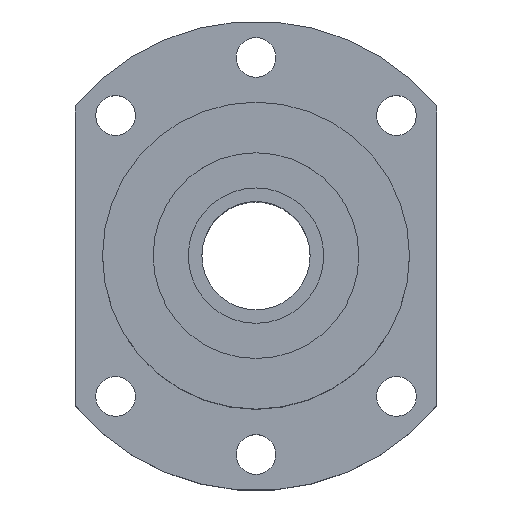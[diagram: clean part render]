
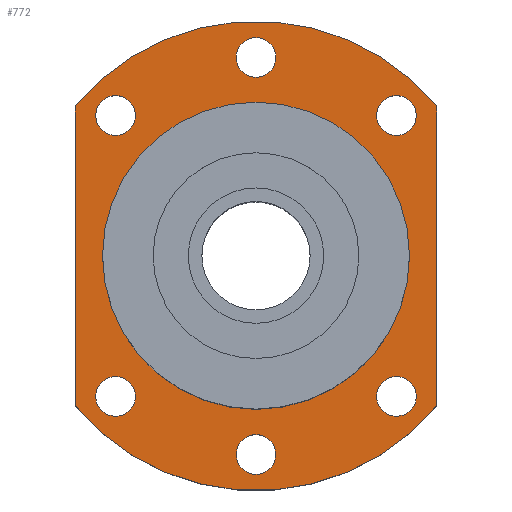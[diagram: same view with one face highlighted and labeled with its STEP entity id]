
A CAD part, top view. The second image highlights one B-rep face of the part: STEP entity #772.
In plain terms, the highlighted planar face has unit normal (0, 0, 1).
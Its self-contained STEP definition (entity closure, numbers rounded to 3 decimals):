
#70=LINE($,#1339,#102);
#71=LINE($,#1342,#103);
#102=VECTOR($,#1123,83.066);
#103=VECTOR($,#1126,83.066);
#152=FACE_BOUND($,#297,.T.);
#153=FACE_BOUND($,#298,.T.);
#154=FACE_BOUND($,#299,.T.);
#155=FACE_BOUND($,#300,.T.);
#156=FACE_BOUND($,#301,.T.);
#157=FACE_BOUND($,#302,.T.);
#158=FACE_BOUND($,#303,.T.);
#159=FACE_BOUND($,#304,.T.);
#297=EDGE_LOOP($,(#686));
#298=EDGE_LOOP($,(#687));
#299=EDGE_LOOP($,(#688));
#300=EDGE_LOOP($,(#689));
#301=EDGE_LOOP($,(#690));
#302=EDGE_LOOP($,(#691));
#303=EDGE_LOOP($,(#692));
#304=EDGE_LOOP($,(#693,#694,#695,#696));
#333=CIRCLE($,#832,5.5);
#337=CIRCLE($,#839,5.5);
#341=CIRCLE($,#846,5.5);
#345=CIRCLE($,#853,5.5);
#349=CIRCLE($,#860,5.5);
#353=CIRCLE($,#867,5.5);
#355=CIRCLE($,#870,42.5);
#359=CIRCLE($,#878,65.);
#360=CIRCLE($,#882,65.);
#401=VERTEX_POINT($,#1255);
#405=VERTEX_POINT($,#1266);
#409=VERTEX_POINT($,#1277);
#413=VERTEX_POINT($,#1288);
#417=VERTEX_POINT($,#1299);
#421=VERTEX_POINT($,#1310);
#423=VERTEX_POINT($,#1315);
#429=VERTEX_POINT($,#1331);
#430=VERTEX_POINT($,#1333);
#431=VERTEX_POINT($,#1337);
#432=VERTEX_POINT($,#1341);
#485=EDGE_CURVE($,#401,#401,#333,.T.);
#489=EDGE_CURVE($,#405,#405,#337,.T.);
#493=EDGE_CURVE($,#409,#409,#341,.T.);
#497=EDGE_CURVE($,#413,#413,#345,.T.);
#501=EDGE_CURVE($,#417,#417,#349,.T.);
#505=EDGE_CURVE($,#421,#421,#353,.T.);
#507=EDGE_CURVE($,#423,#423,#355,.T.);
#514=EDGE_CURVE($,#430,#429,#359,.T.);
#517=EDGE_CURVE($,#429,#431,#70,.T.);
#518=EDGE_CURVE($,#432,#430,#71,.T.);
#520=EDGE_CURVE($,#431,#432,#360,.T.);
#686=ORIENTED_EDGE($,*,*,#485,.T.);
#687=ORIENTED_EDGE($,*,*,#489,.T.);
#688=ORIENTED_EDGE($,*,*,#493,.T.);
#689=ORIENTED_EDGE($,*,*,#497,.T.);
#690=ORIENTED_EDGE($,*,*,#501,.T.);
#691=ORIENTED_EDGE($,*,*,#505,.T.);
#692=ORIENTED_EDGE($,*,*,#507,.T.);
#693=ORIENTED_EDGE($,*,*,#517,.T.);
#694=ORIENTED_EDGE($,*,*,#520,.T.);
#695=ORIENTED_EDGE($,*,*,#518,.T.);
#696=ORIENTED_EDGE($,*,*,#514,.T.);
#720=PLANE($,#883);
#772=ADVANCED_FACE($,(#152,#153,#154,#155,#156,#157,#158,#159),#720,.T.);
#832=AXIS2_PLACEMENT_3D($,#1256,#1022,#1023);
#839=AXIS2_PLACEMENT_3D($,#1267,#1036,#1037);
#846=AXIS2_PLACEMENT_3D($,#1278,#1050,#1051);
#853=AXIS2_PLACEMENT_3D($,#1289,#1064,#1065);
#860=AXIS2_PLACEMENT_3D($,#1300,#1078,#1079);
#867=AXIS2_PLACEMENT_3D($,#1311,#1092,#1093);
#870=AXIS2_PLACEMENT_3D($,#1316,#1098,#1099);
#878=AXIS2_PLACEMENT_3D($,#1334,#1117,#1118);
#882=AXIS2_PLACEMENT_3D($,#1345,#1130,#1131);
#883=AXIS2_PLACEMENT_3D($,#1346,#1132,#1133);
#1022=DIRECTION('center_axis',(0.,0.,-1.));
#1023=DIRECTION('ref_axis',(-1.,0.,0.));
#1036=DIRECTION('center_axis',(0.,0.,-1.));
#1037=DIRECTION('ref_axis',(-1.,0.,0.));
#1050=DIRECTION('center_axis',(0.,0.,-1.));
#1051=DIRECTION('ref_axis',(-1.,0.,0.));
#1064=DIRECTION('center_axis',(0.,0.,-1.));
#1065=DIRECTION('ref_axis',(-1.,0.,0.));
#1078=DIRECTION('center_axis',(0.,0.,-1.));
#1079=DIRECTION('ref_axis',(-1.,0.,0.));
#1092=DIRECTION('center_axis',(0.,0.,-1.));
#1093=DIRECTION('ref_axis',(-1.,0.,0.));
#1098=DIRECTION('center_axis',(0.,0.,-1.));
#1099=DIRECTION('ref_axis',(-1.,0.,0.));
#1117=DIRECTION('center_axis',(0.,0.,1.));
#1118=DIRECTION('ref_axis',(0.769,0.639,0.));
#1123=DIRECTION($,(0.,-1.,0.));
#1126=DIRECTION($,(0.,1.,0.));
#1130=DIRECTION('center_axis',(0.,0.,1.));
#1131=DIRECTION('ref_axis',(-0.769,-0.639,0.));
#1132=DIRECTION('center_axis',(0.,0.,1.));
#1133=DIRECTION('ref_axis',(1.,0.,0.));
#1255=CARTESIAN_POINT('',(5.5,-55.,34.));
#1256=CARTESIAN_POINT('Origin',(0.,-55.,34.));
#1266=CARTESIAN_POINT('',(-33.391,38.891,34.));
#1267=CARTESIAN_POINT('Origin',(-38.891,38.891,34.));
#1277=CARTESIAN_POINT('',(44.391,38.891,34.));
#1278=CARTESIAN_POINT('Origin',(38.891,38.891,34.));
#1288=CARTESIAN_POINT('',(5.5,55.,34.));
#1289=CARTESIAN_POINT('Origin',(0.,55.,34.));
#1299=CARTESIAN_POINT('',(44.391,-38.891,34.));
#1300=CARTESIAN_POINT('Origin',(38.891,-38.891,34.));
#1310=CARTESIAN_POINT('',(-33.391,-38.891,34.));
#1311=CARTESIAN_POINT('Origin',(-38.891,-38.891,34.));
#1315=CARTESIAN_POINT('',(42.5,0.,34.));
#1316=CARTESIAN_POINT('Origin',(0.,0.,34.));
#1331=CARTESIAN_POINT('',(-50.,41.533,34.));
#1333=CARTESIAN_POINT('',(50.,41.533,34.));
#1334=CARTESIAN_POINT('Origin',(0.,0.,34.));
#1337=CARTESIAN_POINT('',(-50.,-41.533,34.));
#1339=CARTESIAN_POINT($,(-50.,41.533,34.));
#1341=CARTESIAN_POINT('',(50.,-41.533,34.));
#1342=CARTESIAN_POINT($,(50.,-41.533,34.));
#1345=CARTESIAN_POINT('Origin',(0.,0.,34.));
#1346=CARTESIAN_POINT('Origin',(0.,0.,
34.));
